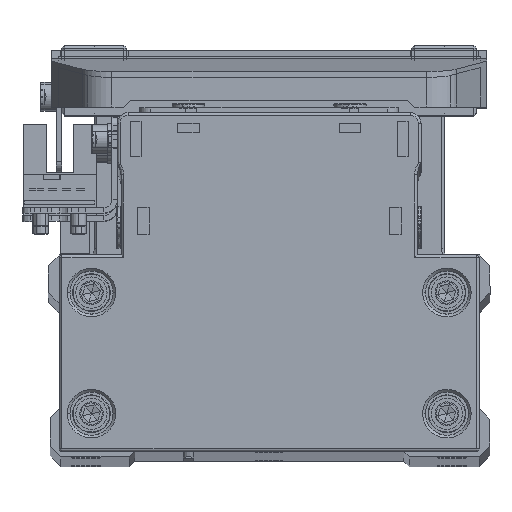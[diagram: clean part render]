
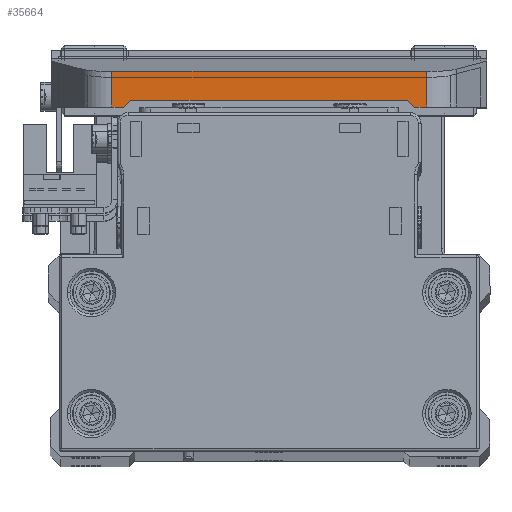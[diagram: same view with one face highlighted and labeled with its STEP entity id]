
A CAD part, top view. The second image highlights one B-rep face of the part: STEP entity #35664.
In plain terms, the highlighted planar face has unit normal (0, 0, 1) as drawn and (-1, 0, 0) by its records, which use the part's own axes.
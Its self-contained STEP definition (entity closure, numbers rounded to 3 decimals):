
#2789 = LINE ( 'NONE', #14949, #13247 ) ;
#3042 = CARTESIAN_POINT ( 'NONE',  ( -67.5, 10.6, 27. ) ) ;
#4032 = LINE ( 'NONE', #16180, #7204 ) ;
#4415 = LINE ( 'NONE', #16558, #36339 ) ;
#4650 = LINE ( 'NONE', #16793, #13400 ) ;
#4776 = CARTESIAN_POINT ( 'NONE',  ( -67.5, 10.6, 40.4 ) ) ;
#5405 = VECTOR ( 'NONE', #38000, 1000. ) ;
#7204 = VECTOR ( 'NONE', #28328, 1000. ) ;
#7388 = VERTEX_POINT ( 'NONE', #26132 ) ;
#7464 = EDGE_CURVE ( 'NONE', #8418, #20094, #8415, .T. ) ;
#7798 = CARTESIAN_POINT ( 'NONE',  ( -67.5, 4., 40.4 ) ) ;
#8163 = DIRECTION ( 'NONE',  ( 0., 0., -1. ) ) ;
#8415 = LINE ( 'NONE', #20557, #31996 ) ;
#8418 = VERTEX_POINT ( 'NONE', #29952 ) ;
#9199 = EDGE_CURVE ( 'NONE', #17817, #8418, #23294, .T. ) ;
#10430 = CARTESIAN_POINT ( 'NONE',  ( -67.5, 4., 29.225 ) ) ;
#11550 = CARTESIAN_POINT ( 'NONE',  ( -67.5, 4., -29.225 ) ) ;
#11989 = CARTESIAN_POINT ( 'NONE',  ( -67.5, 10.6, 29.225 ) ) ;
#12832 = EDGE_CURVE ( 'NONE', #7388, #37517, #13751, .T. ) ;
#13247 = VECTOR ( 'NONE', #27087, 1000. ) ;
#13398 = AXIS2_PLACEMENT_3D ( 'NONE', #4776, #16916, #29048 ) ;
#13400 = VECTOR ( 'NONE', #28932, 1000. ) ;
#13751 = LINE ( 'NONE', #25887, #5405 ) ;
#14949 = CARTESIAN_POINT ( 'NONE',  ( -67.5, 10.6, 29.225 ) ) ;
#15027 = VERTEX_POINT ( 'NONE', #11989 ) ;
#15707 = EDGE_CURVE ( 'NONE', #15027, #31969, #4650, .T. ) ;
#16180 = CARTESIAN_POINT ( 'NONE',  ( -67.5, 10.6, 27. ) ) ;
#16444 = ORIENTED_EDGE ( 'NONE', *, *, #33790, .T. ) ;
#16558 = CARTESIAN_POINT ( 'NONE',  ( -67.5, 10.6, -27. ) ) ;
#16793 = CARTESIAN_POINT ( 'NONE',  ( -67.5, 10.6, 40.4 ) ) ;
#16916 = DIRECTION ( 'NONE',  ( 1., 0., 0. ) ) ;
#17817 = VERTEX_POINT ( 'NONE', #21698 ) ;
#18303 = ORIENTED_EDGE ( 'NONE', *, *, #21490, .T. ) ;
#19408 = VERTEX_POINT ( 'NONE', #10430 ) ;
#19910 = FACE_OUTER_BOUND ( 'NONE', #23754, .T. ) ;
#19947 = DIRECTION ( 'NONE',  ( 0., 0., -1. ) ) ;
#20094 = VERTEX_POINT ( 'NONE', #11550 ) ;
#20557 = CARTESIAN_POINT ( 'NONE',  ( -67.5, 4., -29.225 ) ) ;
#21490 = EDGE_CURVE ( 'NONE', #19408, #15027, #2789, .T. ) ;
#21698 = CARTESIAN_POINT ( 'NONE',  ( -67.5, 10.6, -27. ) ) ;
#23294 = LINE ( 'NONE', #35418, #26532 ) ;
#23741 = VECTOR ( 'NONE', #19947, 1000. ) ;
#23754 = EDGE_LOOP ( 'NONE', ( #35055, #16444, #37919, #23757, #38944, #18303, #25319, #26974 ) ) ;
#23757 = ORIENTED_EDGE ( 'NONE', *, *, #7464, .T. ) ;
#25319 = ORIENTED_EDGE ( 'NONE', *, *, #15707, .T. ) ;
#25887 = CARTESIAN_POINT ( 'NONE',  ( -67.5, 9.3, 25.5 ) ) ;
#26132 = CARTESIAN_POINT ( 'NONE',  ( -67.5, 9.3, 25.5 ) ) ;
#26532 = VECTOR ( 'NONE', #8163, 1000. ) ;
#26974 = ORIENTED_EDGE ( 'NONE', *, *, #35085, .T. ) ;
#27087 = DIRECTION ( 'NONE',  ( 0., 1., 0. ) ) ;
#28328 = DIRECTION ( 'NONE',  ( 0., -0.655, -0.756 ) ) ;
#28712 = DIRECTION ( 'NONE',  ( 0., 0.655, -0.756 ) ) ;
#28932 = DIRECTION ( 'NONE',  ( 0., 0., -1. ) ) ;
#29048 = DIRECTION ( 'NONE',  ( 0., 0., -1. ) ) ;
#29065 = EDGE_CURVE ( 'NONE', #19408, #20094, #35040, .T. ) ;
#29952 = CARTESIAN_POINT ( 'NONE',  ( -67.5, 10.6, -29.225 ) ) ;
#31969 = VERTEX_POINT ( 'NONE', #3042 ) ;
#31996 = VECTOR ( 'NONE', #32694, 1000. ) ;
#32045 = PLANE ( 'NONE',  #13398 ) ;
#32694 = DIRECTION ( 'NONE',  ( 0., -1., 0. ) ) ;
#33790 = EDGE_CURVE ( 'NONE', #37517, #17817, #4415, .T. ) ;
#35040 = LINE ( 'NONE', #7798, #23741 ) ;
#35055 = ORIENTED_EDGE ( 'NONE', *, *, #12832, .T. ) ;
#35085 = EDGE_CURVE ( 'NONE', #31969, #7388, #4032, .T. ) ;
#35418 = CARTESIAN_POINT ( 'NONE',  ( -67.5, 10.6, 40.4 ) ) ;
#35664 = ADVANCED_FACE ( 'NONE', ( #19910 ), #32045, .F. ) ;
#36339 = VECTOR ( 'NONE', #28712, 1000. ) ;
#37517 = VERTEX_POINT ( 'NONE', #37711 ) ;
#37711 = CARTESIAN_POINT ( 'NONE',  ( -67.5, 9.3, -25.5 ) ) ;
#37919 = ORIENTED_EDGE ( 'NONE', *, *, #9199, .T. ) ;
#38000 = DIRECTION ( 'NONE',  ( 0., 0., -1. ) ) ;
#38944 = ORIENTED_EDGE ( 'NONE', *, *, #29065, .F. ) ;
